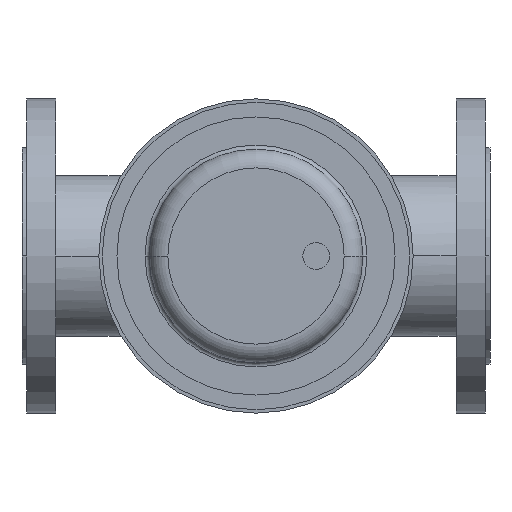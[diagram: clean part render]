
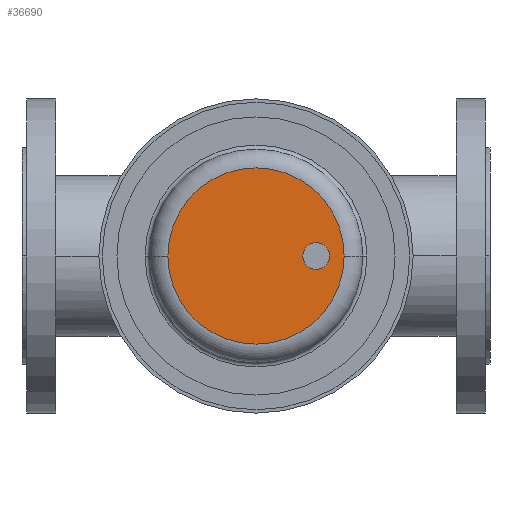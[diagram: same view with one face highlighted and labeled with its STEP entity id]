
A CAD part, front view. The second image highlights one B-rep face of the part: STEP entity #36690.
In plain terms, the highlighted planar face has unit normal (0, -1, 0).
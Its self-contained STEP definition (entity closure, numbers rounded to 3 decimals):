
#36160=CARTESIAN_POINT('',(109.07,-547.,0.));
#36170=VERTEX_POINT('',#36160);
#36200=CARTESIAN_POINT('',(175.,-547.,0.));
#36210=DIRECTION('',(0.,1.,0.));
#36220=DIRECTION('',(1.,0.,0.));
#36230=AXIS2_PLACEMENT_3D('',#36200,#36210,#36220);
#36240=CIRCLE('',#36230,65.93);
#36250=CARTESIAN_POINT('',(240.93,-547.,0.));
#36260=VERTEX_POINT('',#36250);
#36270=EDGE_CURVE('',#36260,#36170,#36240,.T.);
#36400=CARTESIAN_POINT('',(207.965,-547.,0.));
#36410=DIRECTION('',(0.,-1.,0.));
#36420=DIRECTION('',(-1.,0.,0.));
#36430=AXIS2_PLACEMENT_3D('',#36400,#36410,#36420);
#36440=PLANE('',#36430);
#36450=CARTESIAN_POINT('',(220.,-547.,0.));
#36460=DIRECTION('',(0.,1.,0.));
#36470=DIRECTION('',(1.,0.,0.));
#36480=AXIS2_PLACEMENT_3D('',#36450,#36460,#36470);
#36490=CIRCLE('',#36480,10.);
#36500=CARTESIAN_POINT('',(230.,-547.,0.));
#36510=VERTEX_POINT('',#36500);
#36520=CARTESIAN_POINT('',(210.,-547.,0.));
#36530=VERTEX_POINT('',#36520);
#36540=EDGE_CURVE('',#36510,#36530,#36490,.T.);
#36550=ORIENTED_EDGE('',*,*,#36540,.T.);
#36560=EDGE_CURVE('',#36530,#36510,#36490,.T.);
#36570=ORIENTED_EDGE('',*,*,#36560,.T.);
#36580=EDGE_LOOP('',(#36570,#36550));
#36590=FACE_BOUND('',#36580,.T.);
#36600=CARTESIAN_POINT('',(175.,-547.,65.93));
#36610=VERTEX_POINT('',#36600);
#36620=EDGE_CURVE('',#36610,#36260,#36240,.T.);
#36630=ORIENTED_EDGE('',*,*,#36620,.F.);
#36640=ORIENTED_EDGE('',*,*,#36270,.F.);
#36650=EDGE_CURVE('',#36170,#36610,#36240,.T.);
#36660=ORIENTED_EDGE('',*,*,#36650,.F.);
#36670=EDGE_LOOP('',(#36660,#36640,#36630));
#36680=FACE_OUTER_BOUND('',#36670,.T.);
#36690=ADVANCED_FACE('',(#36590,#36680),#36440,.T.);
